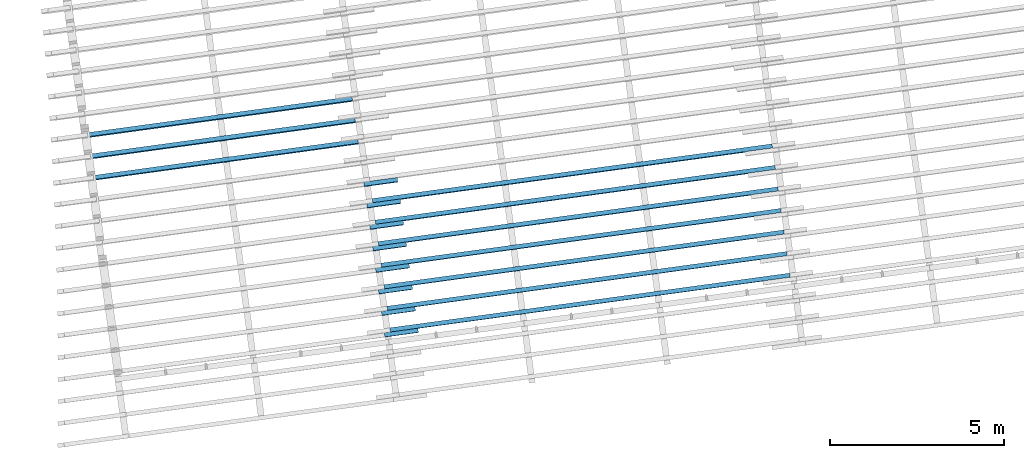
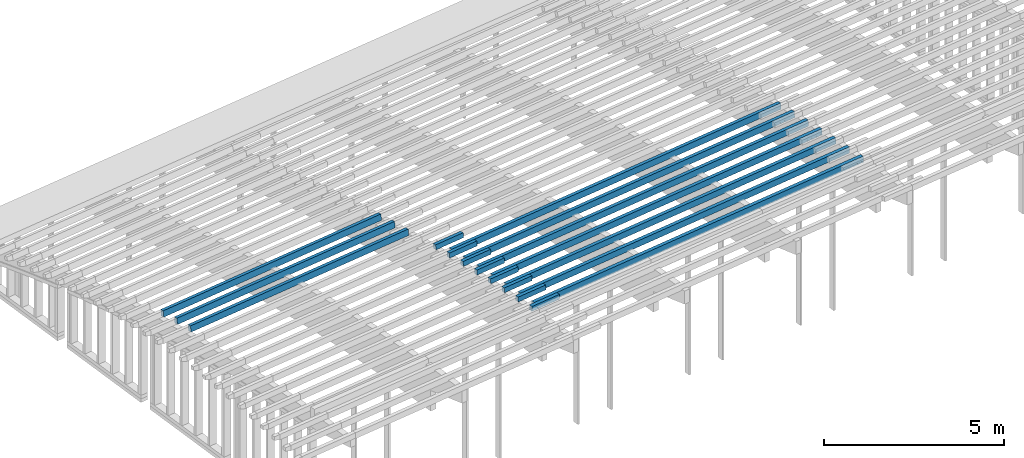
# One storey, part 7 of 18: 18 building element parts, 18 elements without a shape of their own.
"""IFC2X3 building model written with IfcOpenShell, lengths in metres."""

from ifc_helpers import new_model, entity, si_unit, converted_unit, derived_unit, money_unit, direction, frame, origin_with_axes, place, context, subcontext, project, spatial, faceted_brep, material, type_object, element, aggregate, save


model = new_model("IFC2X3")

# Units and contexts
model_context = context("Model", 3, precision=1e-05, world=origin_with_axes(), true_north=direction((0.0, 1.0)))
body_context = subcontext(model_context, "Body", "Model", "MODEL_VIEW")
ifc_project = project(units=[si_unit("LENGTHUNIT", "METRE"), si_unit("AREAUNIT", "SQUARE_METRE"), si_unit("VOLUMEUNIT", "CUBIC_METRE"), converted_unit("PLANEANGLEUNIT", "DEGREE", entity("IfcPlaneAngleMeasure", 0.0174532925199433), si_unit("PLANEANGLEUNIT", "RADIAN"), dimensions=[0, 0, 0, 0, 0, 0, 0]), money_unit("EUR"), converted_unit("TIMEUNIT", "Year", entity("IfcTimeMeasure", 31557600.0), si_unit("TIMEUNIT", "SECOND"), dimensions=[0, 0, 1, 0, 0, 0, 0]), si_unit("MASSUNIT", "GRAM", prefix="KILO"), si_unit("THERMODYNAMICTEMPERATUREUNIT", "DEGREE_CELSIUS"), si_unit("LUMINOUSINTENSITYUNIT", "LUMEN"), si_unit("ENERGYUNIT", "JOULE", prefix="MEGA"), derived_unit("THERMALCONDUCTANCEUNIT", [(si_unit("POWERUNIT", "WATT"), 1), (si_unit("LENGTHUNIT", "METRE"), -1), (si_unit("THERMODYNAMICTEMPERATUREUNIT", "KELVIN"), -1)]), derived_unit("SPECIFICHEATCAPACITYUNIT", [(si_unit("ENERGYUNIT", "JOULE"), 1), (si_unit("MASSUNIT", "GRAM", prefix="KILO"), -1), (si_unit("THERMODYNAMICTEMPERATUREUNIT", "KELVIN"), -1)]), derived_unit("MASSDENSITYUNIT", [(si_unit("MASSUNIT", "GRAM", prefix="KILO"), 1), (si_unit("VOLUMEUNIT", "CUBIC_METRE"), -1)])], contexts=[model_context])

# Site, building, storey
site_placement = place(None, origin_with_axes())
site = spatial("IfcSite", under=ifc_project, at=site_placement, Name="Gelände", CompositionType="ELEMENT")
building_placement = place(site_placement, origin_with_axes())
building = spatial("IfcBuilding", under=site, at=building_placement, Name="Gebäude", CompositionType="ELEMENT")
storey_placement = place(building_placement, frame((0.0, 0.0, 5.5), z_axis=(0.0, 0.0, 1.0), x_axis=(1.0, 0.0, 0.0)))
storey = spatial("IfcBuildingStorey", under=building, at=storey_placement, Name="OG", CompositionType="ELEMENT", Elevation=5.5)

# Beam, building element part
beam_type_1 = type_object("IfcBeamType", Name="Verschiedene Strukturen - 3 Segmente - 120 x 200 x 12890 (660+11570+660)", PredefinedType="NOTDEFINED")
beam_1_placement = place(storey_placement, frame((93.3715612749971, -147.186997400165, 4.781786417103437), z_axis=(0.0, 0.0, 1.0), x_axis=(0.1357111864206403, -0.9907484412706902, 0.0)))
beam_1 = element("IfcBeam", 1, at=beam_1_placement, inside=storey, type_object=beam_type_1, Name="Unterzug-031")
ifc_material = material(Name="Bauholz")
building_element_part_1_placement = place(beam_1_placement, origin_with_axes())
building_element_part_1 = element("IfcBuildingElementPart", 2, at=building_element_part_1_placement, material=ifc_material, Name="Bauholz", context=body_context, shape_type="Brep", body=[
    faceted_brep([(0.05980890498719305, 12.22957971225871, 0.00482963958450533), (0.07266856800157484, 12.2295797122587, -0.1546527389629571), (0.07283202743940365, 12.2295797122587, -0.1546395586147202), (0.07608414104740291, 12.2295797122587, -0.1944510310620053), (-0.04351747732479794, 12.2295797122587, -0.2042210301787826), (-0.05980080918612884, 12.2295797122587, -0.004884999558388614), (0.07266856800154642, 11.43763277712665, -0.1546527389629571), (0.05980890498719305, 11.43763277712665, 0.00482963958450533), (0.07283202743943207, 11.43763277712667, -0.1546395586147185), (0.0598089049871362, 1.451946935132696, 0.00482963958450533), (0.07283202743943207, 1.451946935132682, -0.1546395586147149), (0.07283202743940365, 0.6599999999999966, -0.1546395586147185), (0.07608414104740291, 0.6599999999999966, -0.1944510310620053), (-0.04351747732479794, 0.6599999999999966, -0.2042210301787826), (-0.05980080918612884, 0.6600000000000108, -0.004884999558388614), (0.0598089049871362, 0.6599999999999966, 0.00482963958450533), (0.07266856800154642, 1.451946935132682, -0.1546527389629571), (0.072668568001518, 0.6599999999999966, -0.1546527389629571)], [[[0, 1, 2, 3, 4, 5]], [[6, 1, 0, 7]], [[8, 2, 1, 6]], [[2, 8, 7, 9, 10, 11, 12, 3]], [[3, 12, 13, 4]], [[4, 13, 14, 5]], [[9, 7, 0, 5, 14, 15]], [[6, 7, 8]], [[16, 10, 9]], [[11, 10, 16, 17]], [[14, 13, 12, 11, 17, 15]], [[15, 17, 16, 9]]]),
])
aggregate(beam_1, [building_element_part_1])

beam_2_placement = place(storey_placement, frame((93.45616557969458, -147.8046442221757, 4.829528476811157), z_axis=(0.0, 0.0, 1.0), x_axis=(0.1357111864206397, -0.9907484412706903, 0.0)))
beam_2 = element("IfcBeam", 3, at=beam_2_placement, inside=storey, type_object=beam_type_1, Name="Unterzug-031")
building_element_part_2_placement = place(beam_2_placement, origin_with_axes())
building_element_part_2 = element("IfcBuildingElementPart", 4, at=building_element_part_2_placement, material=ifc_material, Name="Bauholz", context=body_context, shape_type="Brep", body=[
    faceted_brep([(0.05984719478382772, 12.22957971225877, 0.004279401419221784), (0.05993982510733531, 12.22957971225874, 0.002983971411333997), (0.0708701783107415, 12.22957971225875, -0.1553123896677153), (0.07125697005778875, 12.22957971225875, -0.1552856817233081), (0.07411186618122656, 12.22957971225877, -0.1952112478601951), (-0.04558252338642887, 12.22957971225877, -0.2037700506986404), (-0.05984719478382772, 12.22957971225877, -0.004279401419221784), (0.05993982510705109, 12.14208144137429, 0.002983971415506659), (0.0708701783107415, 11.43763277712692, -0.1553123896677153), (0.05993392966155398, 11.43763277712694, 0.003069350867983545), (0.07125697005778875, 11.43763277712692, -0.1552856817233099), (0.06068559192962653, 11.43763277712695, -0.007445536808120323), (0.07125697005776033, 1.451946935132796, -0.1552856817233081), (0.07125697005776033, 0.6600000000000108, -0.1552856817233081), (0.07411186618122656, 0.6600000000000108, -0.1952112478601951), (-0.04558252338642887, 0.6599999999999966, -0.2037700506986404), (-0.05984719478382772, 0.6600000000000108, -0.004279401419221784), (0.05985036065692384, 1.451946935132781, 0.004279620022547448), (0.05985036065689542, 0.6599999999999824, 0.004279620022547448), (0.07087017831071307, 1.451946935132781, -0.1553123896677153), (0.07087017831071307, 0.6599999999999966, -0.1553123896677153)], [[[0, 1, 2, 3, 4, 5, 6]], [[0, 7, 1]], [[8, 2, 1, 7, 9]], [[8, 10, 3, 2]], [[3, 10, 11, 12, 13, 14, 4]], [[15, 5, 4, 14]], [[16, 6, 5, 15]], [[17, 0, 6, 16, 18]], [[11, 9, 7, 0, 17, 12]], [[9, 11, 10, 8]], [[13, 12, 19, 20]], [[16, 15, 14, 13, 20, 18]], [[17, 18, 20, 19]], [[19, 12, 17]]]),
])
aggregate(beam_2, [building_element_part_2])

beam_3_placement = place(storey_placement, frame((93.54083113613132, -148.4227382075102, 4.870957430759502), z_axis=(0.0, 0.0, 1.0), x_axis=(0.135711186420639, -0.9907484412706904, 0.0)))
beam_3 = element("IfcBeam", 5, at=beam_3_placement, inside=storey, type_object=beam_type_1, Name="Unterzug-031")
building_element_part_3_placement = place(beam_3_placement, origin_with_axes())
building_element_part_3 = element("IfcBuildingElementPart", 6, at=building_element_part_3_placement, material=ifc_material, Name="Bauholz", context=body_context, shape_type="Brep", body=[
    faceted_brep([(0.05988619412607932, 12.22957971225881, 0.00374901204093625), (0.06937521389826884, 12.22957971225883, -0.1559693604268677), (0.06967847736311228, 12.22957971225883, -0.1559513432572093), (0.07213199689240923, 12.22957971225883, -0.1959514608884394), (-0.04764289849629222, 12.22957971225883, -0.2032981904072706), (-0.05988744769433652, 12.22957971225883, -0.003673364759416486), (0.06937521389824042, 11.43763277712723, -0.1559693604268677), (0.05988619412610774, 11.43763277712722, 0.00374901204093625), (0.06967847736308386, 11.43763277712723, -0.1559513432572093), (0.05989067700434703, 1.451946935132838, 0.003673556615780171), (0.06967847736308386, 1.451946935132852, -0.1559513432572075), (0.06967847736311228, 0.6599999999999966, -0.1559513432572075), (0.07213199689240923, 0.6599999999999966, -0.1959514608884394), (-0.0476428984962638, 0.6599999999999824, -0.2032981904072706), (-0.05988744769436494, 0.6599999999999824, -0.003673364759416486), (0.0598906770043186, 0.6599999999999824, 0.003673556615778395), (0.069375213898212, 1.451946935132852, -0.1559693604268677), (0.069375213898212, 0.6599999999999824, -0.1559693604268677)], [[[0, 1, 2, 3, 4, 5]], [[6, 1, 0, 7]], [[8, 2, 1, 6]], [[2, 8, 7, 9, 10, 11, 12, 3]], [[13, 4, 3, 12]], [[14, 5, 4, 13]], [[9, 7, 0, 5, 14, 15]], [[6, 7, 8]], [[16, 10, 9]], [[11, 10, 16, 17]], [[14, 13, 12, 11, 17, 15]], [[9, 15, 17, 16]]]),
])
aggregate(beam_3, [building_element_part_3])

beam_type_2 = type_object("IfcBeamType", Name="Verschiedene Strukturen - 4 Segmente - 120 x 200 x 10342 (970+7659+1523+190)", PredefinedType="NOTDEFINED")
beam_4_placement = place(storey_placement, frame((95.08032866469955, -148.9629135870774, 4.912074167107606), z_axis=(0.0, 0.0, 1.0), x_axis=(-0.1357111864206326, 0.9907484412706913, 0.0)))
beam_4 = element("IfcBeam", 7, at=beam_4_placement, inside=storey, type_object=beam_type_2, Name="Unterzug-031")
building_element_part_4_placement = place(beam_4_placement, origin_with_axes())
building_element_part_4 = element("IfcBuildingElementPart", 8, at=building_element_part_4_placement, material=ifc_material, Name="Bauholz", context=body_context, shape_type="Brep", body=[
    faceted_brep([(0.05992836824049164, 0.0, -0.002930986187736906), (0.05992836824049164, 0.9700000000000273, -0.002930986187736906), (-0.05992836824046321, 0.9700000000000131, 0.002930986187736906), (-0.05992836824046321, 0.0, 0.002930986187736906), (0.05211240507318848, 0.0, -0.1627399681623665), (0.05211240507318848, 0.9700000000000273, -0.1627399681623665), (-0.06774433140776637, 0.9700000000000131, -0.1568779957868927), (-0.06774433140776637, 0.0, -0.1568779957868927)], [[[0, 1, 2, 3]], [[4, 5, 1, 0]], [[2, 1, 5, 6]], [[3, 2, 6, 7]], [[4, 0, 3, 7]], [[7, 6, 5, 4]]]),
])
aggregate(beam_4, [building_element_part_4])

beam_type_3 = type_object("IfcBeamType", Name="Verschiedene Strukturen - 4 Segmente - 120 x 200 x 10261 (970+7659+1442+190)", PredefinedType="NOTDEFINED")
beam_5_placement = place(storey_placement, frame((94.99560086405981, -148.3443651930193, 4.878264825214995), z_axis=(0.0, 0.0, 1.0), x_axis=(-0.1357111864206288, 0.9907484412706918, 0.0)))
beam_5 = element("IfcBeam", 9, at=beam_5_placement, inside=storey, type_object=beam_type_3, Name="Unterzug-031")
building_element_part_5_placement = place(beam_5_placement, origin_with_axes())
building_element_part_5 = element("IfcBuildingElementPart", 10, at=building_element_part_5_placement, material=ifc_material, Name="Bauholz", context=body_context, shape_type="Brep", body=[
    faceted_brep([(0.0598943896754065, 0.0, -0.00355838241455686), (0.0598943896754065, 0.9700000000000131, -0.00355838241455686), (-0.05989438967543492, 0.9700000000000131, 0.00355838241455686), (-0.05989438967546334, 0.0, 0.00355838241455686), (0.05040536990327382, 0.0, -0.1632767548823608), (0.05040536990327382, 0.9700000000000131, -0.1632767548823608), (-0.0693834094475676, 0.9699999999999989, -0.1561599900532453), (-0.06938340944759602, 0.0, -0.1561599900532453)], [[[0, 1, 2, 3]], [[4, 5, 1, 0]], [[2, 1, 5, 6]], [[3, 2, 6, 7]], [[4, 0, 3, 7]], [[7, 6, 5, 4]]]),
])
aggregate(beam_5, [building_element_part_5])

beam_type_4 = type_object("IfcBeamType", Name="Verschiedene Strukturen - 4 Segmente - 120 x 200 x 10184 (970+7659+1365+190)", PredefinedType="NOTDEFINED")
beam_6_placement = place(storey_placement, frame((94.91092517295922, -147.7261972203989, 4.837969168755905), z_axis=(0.0, 0.0, 1.0), x_axis=(-0.1357111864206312, 0.9907484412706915, 0.0)))
beam_6 = element("IfcBeam", 11, at=beam_6_placement, inside=storey, type_object=beam_type_4, Name="Unterzug-031")
building_element_part_6_placement = place(beam_6_placement, origin_with_axes())
building_element_part_6 = element("IfcBuildingElementPart", 12, at=building_element_part_6_placement, material=ifc_material, Name="Bauholz", context=body_context, shape_type="Brep", body=[
    faceted_brep([(0.05985747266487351, 0.0, -0.004133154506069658), (0.05985747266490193, 0.9699999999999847, -0.004133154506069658), (-0.05985747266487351, 0.9699999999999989, 0.004133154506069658), (-0.05985747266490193, 0.0, 0.004133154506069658), (0.04883572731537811, 0.0, -0.1637530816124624), (0.04883572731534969, 0.9699999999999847, -0.1637530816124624), (-0.07087921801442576, 0.9700000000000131, -0.1554867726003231), (-0.07087921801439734, 0.0, -0.1554867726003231)], [[[0, 1, 2, 3]], [[4, 5, 1, 0]], [[2, 1, 5, 6]], [[3, 2, 6, 7]], [[4, 0, 3, 7]], [[7, 6, 5, 4]]]),
])
aggregate(beam_6, [building_element_part_6])

beam_type_5 = type_object("IfcBeamType", Name="Verschiedene Strukturen - 4 Segmente - 120 x 200 x 10110 (970+7659+1291+190)", PredefinedType="NOTDEFINED")
beam_7_placement = place(storey_placement, frame((94.82630850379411, -147.1084601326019, 4.791438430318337), z_axis=(0.0, 0.0, 1.0), x_axis=(-0.1357111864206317, 0.9907484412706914, 0.0)))
beam_7 = element("IfcBeam", 13, at=beam_7_placement, inside=storey, type_object=beam_type_5, Name="Unterzug-031")
building_element_part_7_placement = place(beam_7_placement, origin_with_axes())
building_element_part_7 = element("IfcBuildingElementPart", 14, at=building_element_part_7_placement, material=ifc_material, Name="Bauholz", context=body_context, shape_type="Brep", body=[
    faceted_brep([(0.05980589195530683, 0.0, -0.004822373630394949), (0.05980589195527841, 0.9700000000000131, -0.004822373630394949), (-0.05980589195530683, 0.9700000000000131, 0.004822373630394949), (-0.05980589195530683, 0.0, 0.004822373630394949), (0.04694622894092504, 0.0, -0.1643047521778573), (0.04694622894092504, 0.9700000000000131, -0.1643047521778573), (-0.07266555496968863, 0.9700000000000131, -0.1546600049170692), (-0.07266555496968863, 0.0, -0.1546600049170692)], [[[0, 1, 2, 3]], [[4, 5, 1, 0]], [[2, 1, 5, 6]], [[3, 2, 6, 7]], [[4, 0, 3, 7]], [[7, 6, 5, 4]]]),
])
aggregate(beam_7, [building_element_part_7])

beam_type_6 = type_object("IfcBeamType", Name="Verschiedene Strukturen - 4 Segmente - 120 x 200 x 9973 (970+7659+1154+190)", PredefinedType="NOTDEFINED")
beam_8_placement = place(storey_placement, frame((94.65728644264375, -145.8745283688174, 4.679531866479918), z_axis=(0.0, 0.0, 1.0), x_axis=(-0.1357111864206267, 0.9907484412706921, 0.0)))
beam_8 = element("IfcBeam", 15, at=beam_8_placement, inside=storey, type_object=beam_type_6, Name="Unterzug-031")
building_element_part_8_placement = place(beam_8_placement, origin_with_axes())
building_element_part_8 = element("IfcBuildingElementPart", 16, at=building_element_part_8_placement, material=ifc_material, Name="Bauholz", context=body_context, shape_type="Brep", body=[
    faceted_brep([(0.05970437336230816, 0.0, -0.005948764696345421), (0.05970437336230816, 0.9699999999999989, -0.005948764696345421), (-0.05970437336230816, 0.9700000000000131, 0.005948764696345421), (-0.05970437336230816, 0.0, 0.005948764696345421), (0.04384100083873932, 0.0, -0.16516042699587), (0.04384100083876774, 0.9699999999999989, -0.16516042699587), (-0.07556774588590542, 0.9699999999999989, -0.1532628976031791), (-0.07556774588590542, 0.0, -0.1532628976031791)], [[[0, 1, 2, 3]], [[4, 5, 1, 0]], [[2, 1, 5, 6]], [[3, 2, 6, 7]], [[4, 0, 3, 7]], [[7, 6, 5, 4]]]),
])
aggregate(beam_8, [building_element_part_8])

beam_type_7 = type_object("IfcBeamType", Name="Verschiedene Strukturen - 4 Segmente - 120 x 200 x 10040 (970+7659+1220+190)", PredefinedType="NOTDEFINED")
beam_9_placement = place(storey_placement, frame((94.74175862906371, -146.4912106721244, 4.738673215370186), z_axis=(0.0, 0.0, 1.0), x_axis=(-0.1357111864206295, 0.9907484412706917, 0.0)))
beam_9 = element("IfcBeam", 17, at=beam_9_placement, inside=storey, type_object=beam_type_7, Name="Unterzug-031")
building_element_part_9_placement = place(beam_9_placement, origin_with_axes())
building_element_part_9 = element("IfcBuildingElementPart", 18, at=building_element_part_9_placement, material=ifc_material, Name="Bauholz", context=body_context, shape_type="Brep", body=[
    faceted_brep([(0.05976153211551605, 0.0, -0.005344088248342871), (0.05976153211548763, 0.9699999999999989, -0.005344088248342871), (-0.05976153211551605, 0.9699999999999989, 0.005344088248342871), (-0.05976153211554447, 0.0, 0.005344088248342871), (0.04551063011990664, 0.0, -0.1647081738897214), (0.04551063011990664, 0.9699999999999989, -0.1647081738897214), (-0.07401243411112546, 0.9699999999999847, -0.1540199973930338), (-0.07401243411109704, 0.0, -0.1540199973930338)], [[[0, 1, 2, 3]], [[4, 5, 1, 0]], [[2, 1, 5, 6]], [[3, 2, 6, 7]], [[4, 0, 3, 7]], [[7, 6, 5, 4]]]),
])
aggregate(beam_9, [building_element_part_9])

beam_type_8 = type_object("IfcBeamType", Name="Verschiedene Strukturen - 4 Segmente - 120 x 200 x 9909 (970+7659+1090+190)", PredefinedType="NOTDEFINED")
beam_10_placement = place(storey_placement, frame((94.57289909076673, -145.2584653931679, 4.614089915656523), z_axis=(0.0, 0.0, 1.0), x_axis=(-0.135711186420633, 0.9907484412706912, 0.0)))
beam_10 = element("IfcBeam", 19, at=beam_10_placement, inside=storey, type_object=beam_type_8, Name="Unterzug-031")
building_element_part_10_placement = place(beam_10_placement, origin_with_axes())
building_element_part_10 = element("IfcBuildingElementPart", 20, at=building_element_part_10_placement, material=ifc_material, Name="Bauholz", context=body_context, shape_type="Brep", body=[
    faceted_brep([(0.05963765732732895, 0.0, -0.006584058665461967), (0.05963765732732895, 0.9699999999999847, -0.006584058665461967), (-0.05963765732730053, 0.9699999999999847, 0.006584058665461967), (-0.05963765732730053, 0.0, 0.006584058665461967), (0.04208016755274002, 0.0, -0.1656178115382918), (0.04208016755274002, 0.9699999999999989, -0.1656178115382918), (-0.07719514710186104, 0.9699999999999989, -0.1524496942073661), (-0.07719514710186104, 0.0, -0.1524496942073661)], [[[0, 1, 2, 3]], [[4, 5, 1, 0]], [[2, 1, 5, 6]], [[3, 2, 6, 7]], [[4, 0, 3, 7]], [[7, 6, 5, 4]]]),
])
aggregate(beam_10, [building_element_part_10])

beam_type_9 = type_object("IfcBeamType", Name="Verschiedene Strukturen - 4 Segmente - 120 x 200 x 9793 (970+7659+974+190)", PredefinedType="NOTDEFINED")
beam_11_placement = place(storey_placement, frame((94.40442273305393, -144.0285174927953, 4.46423359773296), z_axis=(0.0, 0.0, 1.0), x_axis=(-0.1357111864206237, 0.9907484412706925, 0.0)))
beam_11 = element("IfcBeam", 21, at=beam_11_placement, inside=storey, type_object=beam_type_9, Name="Unterzug-031")
building_element_part_11_placement = place(beam_11_placement, origin_with_axes())
building_element_part_11 = element("IfcBuildingElementPart", 22, at=building_element_part_11_placement, material=ifc_material, Name="Bauholz", context=body_context, shape_type="Brep", body=[
    faceted_brep([(0.05949214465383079, 8.629139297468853, -0.00779004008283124), (0.05949240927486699, 4.852805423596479, -0.00779004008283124), (0.03871846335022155, 4.852805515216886, -0.166437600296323), (0.03871845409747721, 4.732805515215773, -0.1664376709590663), (0.05949188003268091, 4.732805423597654, -0.00779004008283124), (0.05949214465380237, 0.9700000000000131, -0.00779004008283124), (0.0335253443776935, 0.9700000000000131, -0.2060971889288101), (0.0335253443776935, 8.629139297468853, -0.2060971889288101), (-0.05949214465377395, 8.629139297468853, 0.00779004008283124), (-0.05949188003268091, 4.852803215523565, 0.007790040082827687), (-0.05949240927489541, 4.732803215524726, 0.007790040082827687), (-0.05949214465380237, 0.9700000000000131, 0.00779004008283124), (0.03808081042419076, 4.852805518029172, -0.166350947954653), (0.03808028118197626, 4.732805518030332, -0.166350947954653), (-0.0854589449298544, 0.9700000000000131, -0.1905171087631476), (-0.08545894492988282, 8.629139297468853, -0.1905171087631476), (-0.08026585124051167, 4.732803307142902, -0.1508577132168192), (-0.08026584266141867, 4.852803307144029, -0.1508576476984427), (-0.07989896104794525, 4.852803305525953, -0.1509038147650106), (-0.07989949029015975, 4.732803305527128, -0.1509038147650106)], [[[0, 1, 2, 3, 4, 5, 6, 7]], [[5, 4, 1, 0, 8, 9, 10, 11]], [[12, 2, 1]], [[13, 3, 2, 12]], [[13, 4, 3]], [[11, 14, 6, 5]], [[7, 6, 14, 15]], [[7, 15, 8, 0]], [[12, 1, 4, 13]], [[14, 11, 10, 16, 17, 9, 8, 15]], [[9, 18, 19, 10]], [[19, 16, 10]], [[17, 16, 19, 18]], [[18, 9, 17]]]),
])
aggregate(beam_11, [building_element_part_11])

beam_type_10 = type_object("IfcBeamType", Name="Verschiedene Strukturen - 4 Segmente - 120 x 200 x 9740 (970+7659+921+190)", PredefinedType="NOTDEFINED")
beam_12_placement = place(storey_placement, frame((94.3203410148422, -143.4146857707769, 4.380047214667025), z_axis=(0.0, 0.0, 1.0), x_axis=(-0.1357111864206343, 0.9907484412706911, 0.0)))
beam_12 = element("IfcBeam", 23, at=beam_12_placement, inside=storey, type_object=beam_type_10, Name="Unterzug-031")
building_element_part_12_placement = place(beam_12_placement, origin_with_axes())
building_element_part_12 = element("IfcBuildingElementPart", 24, at=building_element_part_12_placement, material=ifc_material, Name="Bauholz", context=body_context, shape_type="Brep", body=[
    faceted_brep([(0.05941462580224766, 8.629139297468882, -0.008360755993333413), (0.05941489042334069, 4.852805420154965, -0.008360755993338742), (0.03711890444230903, 4.852805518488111, -0.1668024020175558), (0.037118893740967, 4.732805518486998, -0.1668024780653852), (0.05941436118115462, 4.732805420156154, -0.008360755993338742), (0.05941462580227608, 0.9699999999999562, -0.008360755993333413), (0.03154543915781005, 0.9699999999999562, -0.2064095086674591), (0.03154543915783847, 8.629139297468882, -0.2064095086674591), (-0.05941462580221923, 8.629139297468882, 0.008360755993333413), (-0.05941436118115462, 4.852803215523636, 0.008360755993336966), (-0.05941489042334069, 4.732803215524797, 0.008360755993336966), (-0.05941462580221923, 0.9699999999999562, 0.008360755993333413), (0.0363310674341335, 4.85280552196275, -0.1666868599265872), (0.036330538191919, 4.732805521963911, -0.1666868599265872), (-0.08728381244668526, 0.969999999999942, -0.1896879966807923), (-0.08728381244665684, 8.629139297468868, -0.1896879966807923), (-0.08171023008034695, 4.732803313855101, -0.1500800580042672), (-0.0817102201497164, 4.852803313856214, -0.1500799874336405), (-0.08138939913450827, 4.852803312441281, -0.1501235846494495), (-0.08138992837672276, 4.732803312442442, -0.1501235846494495)], [[[0, 1, 2, 3, 4, 5, 6, 7]], [[5, 4, 1, 0, 8, 9, 10, 11]], [[12, 2, 1]], [[13, 3, 2, 12]], [[13, 4, 3]], [[11, 14, 6, 5]], [[7, 6, 14, 15]], [[7, 15, 8, 0]], [[12, 1, 4, 13]], [[14, 11, 10, 16, 17, 9, 8, 15]], [[9, 18, 19, 10]], [[19, 16, 10]], [[17, 16, 19, 18]], [[18, 9, 17]]]),
])
aggregate(beam_12, [building_element_part_12])

beam_type_11 = type_object("IfcBeamType", Name="Verschiedene Strukturen - 4 Segmente - 120 x 200 x 9690 (970+7659+871+190)", PredefinedType="NOTDEFINED")
beam_13_placement = place(storey_placement, frame((94.23638661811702, -142.8017835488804, 4.289462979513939), z_axis=(0.0, 0.0, 1.0), x_axis=(-0.1357111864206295, 0.9907484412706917, 0.0)))
beam_13 = element("IfcBeam", 25, at=beam_13_placement, inside=storey, type_object=beam_type_11, Name="Unterzug-031")
building_element_part_13_placement = place(beam_13_placement, origin_with_axes())
building_element_part_13 = element("IfcBuildingElementPart", 26, at=building_element_part_13_placement, material=ifc_material, Name="Bauholz", context=body_context, shape_type="Brep", body=[
    faceted_brep([(0.0593343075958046, 8.629139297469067, -0.008912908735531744), (0.05933457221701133, 4.852805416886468, -0.008912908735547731), (0.0355660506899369, 4.852805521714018, -0.1671410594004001), (0.03556603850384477, 4.732805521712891, -0.1671411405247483), (0.05933404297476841, 4.732805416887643, -0.008912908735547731), (0.0593343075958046, 0.9700000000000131, -0.008912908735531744), (0.02962461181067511, 0.9699999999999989, -0.2066939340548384), (0.02962461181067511, 8.629139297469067, -0.2066939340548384), (-0.0593343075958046, 8.62913929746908, 0.008912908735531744), (-0.05933404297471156, 4.852803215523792, 0.008912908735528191), (-0.05933457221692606, 4.732803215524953, 0.008912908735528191), (-0.0593343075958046, 0.9700000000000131, 0.008912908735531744), (0.03466730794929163, 4.85280552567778, -0.1670000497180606), (0.03466677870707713, 4.732805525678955, -0.1670000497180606), (-0.08904400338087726, 0.9699999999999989, -0.1888681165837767), (-0.08904400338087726, 8.62913929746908, -0.1888681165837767), (-0.08310221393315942, 4.732803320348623, -0.1493129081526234), (-0.08310220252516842, 4.85280332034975, -0.1493128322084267), (-0.08298046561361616, 4.852803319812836, -0.1493306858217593), (-0.08298099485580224, 4.732803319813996, -0.1493306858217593)], [[[0, 1, 2, 3, 4, 5, 6, 7]], [[5, 4, 1, 0, 8, 9, 10, 11]], [[12, 2, 1]], [[13, 3, 2, 12]], [[13, 4, 3]], [[11, 14, 6, 5]], [[7, 6, 14, 15]], [[7, 15, 8, 0]], [[12, 1, 4, 13]], [[14, 11, 10, 16, 17, 9, 8, 15]], [[9, 18, 19, 10]], [[19, 16, 10]], [[17, 16, 19, 18]], [[18, 9, 17]]]),
])
aggregate(beam_13, [building_element_part_13])

beam_14_placement = place(storey_placement, frame((93.20257109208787, -145.9532983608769, 4.667383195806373), z_axis=(0.0, 0.0, 1.0), x_axis=(0.1357111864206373, -0.9907484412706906, 0.0)))
beam_14 = element("IfcBeam", 27, at=beam_14_placement, inside=storey, type_object=beam_type_1, Name="Unterzug-031")
building_element_part_14_placement = place(beam_14_placement, origin_with_axes())
building_element_part_14 = element("IfcBuildingElementPart", 28, at=building_element_part_14_placement, material=ifc_material, Name="Bauholz", context=body_context, shape_type="Brep", body=[
    faceted_brep([(-0.05968965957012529, 12.22957971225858, -0.00609463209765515), (0.05968605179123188, 12.22957971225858, 0.00609426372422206), (0.07553889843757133, 12.22957971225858, -0.153011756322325), (0.07593127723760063, 12.2295797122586, -0.1529726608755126), (0.080005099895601, 12.22957971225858, -0.1928708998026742), (-0.03937421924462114, 12.22957971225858, -0.2050601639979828), (0.05968605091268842, 11.43763277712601, 0.006094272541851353), (-0.05968965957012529, 0.660000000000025, -0.00609463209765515), (0.05968605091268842, 0.6599999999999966, 0.00609427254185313), (0.05968605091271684, 1.451946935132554, 0.006094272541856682), (0.07553889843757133, 11.43763277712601, -0.153011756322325), (0.07593127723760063, 11.43763277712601, -0.1529726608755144), (0.06088310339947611, 11.43763277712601, -0.005593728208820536), (0.0759312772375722, 1.451946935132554, -0.1529726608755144), (0.0759312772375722, 0.660000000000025, -0.1529726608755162), (0.080005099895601, 0.6600000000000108, -0.1928708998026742), (-0.03937421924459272, 0.6600000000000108, -0.2050601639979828), (0.07553889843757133, 0.6599999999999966, -0.153011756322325), (0.07553889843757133, 1.451946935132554, -0.153011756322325)], [[[0, 1, 2, 3, 4, 5]], [[6, 1, 0, 7, 8, 9]], [[10, 2, 1, 6]], [[10, 11, 3, 2]], [[3, 11, 12, 13, 14, 15, 4]], [[16, 5, 4, 15]], [[7, 0, 5, 16]], [[7, 16, 15, 14, 17, 8]], [[9, 8, 17, 18]], [[13, 12, 6, 9]], [[6, 12, 11, 10]], [[14, 13, 18, 17]], [[18, 13, 9]]]),
])
aggregate(beam_14, [building_element_part_14])

beam_15_placement = place(storey_placement, frame((93.2870268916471, -146.5698610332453, 4.727736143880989), z_axis=(0.0, 0.0, 1.0), x_axis=(0.1357111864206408, -0.9907484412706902, 0.0)))
beam_15 = element("IfcBeam", 29, at=beam_15_placement, inside=storey, type_object=beam_type_1, Name="Unterzug-031")
building_element_part_15_placement = place(beam_15_placement, origin_with_axes())
building_element_part_15 = element("IfcBuildingElementPart", 30, at=building_element_part_15_placement, material=ifc_material, Name="Bauholz", context=body_context, shape_type="Brep", body=[
    faceted_brep([(-0.05974829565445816, 12.22957971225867, -0.00549009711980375), (0.05974831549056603, 12.22957971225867, 0.005490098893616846), (0.0739900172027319, 12.22957971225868, -0.1537711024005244), (0.07437914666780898, 12.22957971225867, -0.1537363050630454), (0.07804861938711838, 12.22957971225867, -0.193670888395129), (-0.04144797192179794, 12.22957971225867, -0.2046510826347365), (0.05974831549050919, 1.451946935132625, 0.005490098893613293), (0.05974831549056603, 11.4376327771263, 0.00549009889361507), (-0.05974829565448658, 0.6600000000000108, -0.00549009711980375), (0.05974831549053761, 0.6599999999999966, 0.005490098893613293), (0.07399001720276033, 11.4376327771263, -0.1537711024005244), (0.07437914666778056, 11.43763277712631, -0.1537363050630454), (0.07437914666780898, 1.451946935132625, -0.1537363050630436), (0.07437914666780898, 0.6600000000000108, -0.15373630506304), (0.0780486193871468, 0.6600000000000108, -0.193670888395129), (-0.04144797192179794, 0.6599999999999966, -0.2046510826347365), (0.07399001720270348, 0.6599999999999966, -0.1537711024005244), (0.0739900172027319, 1.451946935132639, -0.1537711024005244)], [[[0, 1, 2, 3, 4, 5]], [[6, 7, 1, 0, 8, 9]], [[10, 2, 1, 7]], [[10, 11, 3, 2]], [[3, 11, 7, 6, 12, 13, 14, 4]], [[4, 14, 15, 5]], [[5, 15, 8, 0]], [[14, 13, 16, 9, 8, 15]], [[16, 17, 6, 9]], [[10, 7, 11]], [[6, 17, 12]], [[17, 16, 13, 12]]]),
])
aggregate(beam_15, [building_element_part_15])

beam_type_12 = type_object("IfcBeamType", Name="Verschiedene Strukturen - 4 Segmente - 120 x 200 x 10426 (970+7659+1607+190)", PredefinedType="NOTDEFINED")
beam_16_placement = place(storey_placement, frame((95.1650979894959, -149.5817651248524, 4.939661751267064), z_axis=(0.0, 0.0, 1.0), x_axis=(-0.1357111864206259, 0.9907484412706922, 0.0)))
beam_16 = element("IfcBeam", 31, at=beam_16_placement, inside=storey, type_object=beam_type_12, Name="Unterzug-031")
building_element_part_16_placement = place(beam_16_placement, origin_with_axes())
building_element_part_16 = element("IfcBuildingElementPart", 32, at=building_element_part_16_placement, material=ifc_material, Name="Bauholz", context=body_context, shape_type="Brep", body=[
    faceted_brep([(0.05995537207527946, 0.0, -0.002313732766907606), (0.05995537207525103, 0.9700000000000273, -0.002313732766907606), (-0.05995537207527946, 0.9700000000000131, 0.002313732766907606), (-0.05995537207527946, 0.0, 0.002313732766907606), (0.05378541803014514, 0.0, -0.1621947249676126), (0.05378541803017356, 0.9700000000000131, -0.1621947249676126), (-0.06612532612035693, 0.9700000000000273, -0.1575672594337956), (-0.06612532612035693, 0.0, -0.1575672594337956)], [[[0, 1, 2, 3]], [[4, 5, 1, 0]], [[2, 1, 5, 6]], [[3, 2, 6, 7]], [[4, 0, 3, 7]], [[7, 6, 5, 4]]]),
])
aggregate(beam_16, [building_element_part_16])

beam_17_placement = place(storey_placement, frame((93.71031129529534, -149.66001427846, 4.934859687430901), z_axis=(0.0, 0.0, 1.0), x_axis=(0.1357111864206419, -0.99074844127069, 0.0)))
beam_17 = element("IfcBeam", 33, at=beam_17_placement, inside=storey, type_object=beam_type_1, Name="Unterzug-031")
building_element_part_17_placement = place(beam_17_placement, origin_with_axes())
building_element_part_17 = element("IfcBuildingElementPart", 34, at=building_element_part_17_placement, material=ifc_material, Name="Bauholz", context=body_context, shape_type="Brep", body=[
    faceted_brep([(0.05994953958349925, 12.229579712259, 0.002460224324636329), (0.05997929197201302, 12.229579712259, 0.001735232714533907), (0.0661201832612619, 12.229579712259, -0.1573926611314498), (0.06650900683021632, 12.229579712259, -0.157377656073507), (0.06815028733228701, 12.22957971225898, -0.197371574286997), (-0.05174879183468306, 12.22957971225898, -0.2022920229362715), (-0.05994953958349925, 12.229579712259, -0.002460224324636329), (0.06650869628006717, 11.43763277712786, -0.1573776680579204), (0.05997320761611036, 11.43763277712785, 0.001892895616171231), (0.05995131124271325, 1.451946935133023, 0.002460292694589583), (0.0665090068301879, 1.451946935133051, -0.1573776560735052), (0.06650900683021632, 0.6600000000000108, -0.1573776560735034), (0.06815028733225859, 0.6600000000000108, -0.197371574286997), (0.06612018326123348, 11.43763277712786, -0.1573926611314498), (-0.05174879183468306, 0.6600000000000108, -0.2022920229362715), (-0.05994953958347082, 0.660000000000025, -0.002460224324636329), (0.05995131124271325, 0.6600000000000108, 0.002460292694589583), (0.06612018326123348, 1.451946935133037, -0.1573926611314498), (0.06612018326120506, 0.6600000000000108, -0.1573926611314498)], [[[0, 1, 2, 3, 4, 5, 6]], [[7, 8, 1, 0, 9, 10, 11, 12, 4, 3]], [[13, 2, 1, 8]], [[13, 7, 3, 2]], [[14, 5, 4, 12]], [[15, 6, 5, 14]], [[9, 0, 6, 15, 16]], [[13, 8, 7]], [[17, 10, 9]], [[11, 10, 17, 18]], [[15, 14, 12, 11, 18, 16]], [[9, 16, 18, 17]]]),
])
aggregate(beam_17, [building_element_part_17])

beam_18_placement = place(storey_placement, frame((93.62554926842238, -149.0412160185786, 4.906069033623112), z_axis=(0.0, 0.0, 1.0), x_axis=(0.1357111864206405, -0.9907484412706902, 0.0)))
beam_18 = element("IfcBeam", 35, at=beam_18_placement, inside=storey, type_object=beam_type_1, Name="Unterzug-031")
building_element_part_18_placement = place(beam_18_placement, origin_with_axes())
building_element_part_18 = element("IfcBuildingElementPart", 36, at=building_element_part_18_placement, material=ifc_material, Name="Bauholz", context=body_context, shape_type="Brep", body=[
    faceted_brep([(-0.05992102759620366, 12.22957971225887, -0.003077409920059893), (0.0599234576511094, 12.22957971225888, 0.003074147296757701), (0.06773942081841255, 12.22957971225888, -0.1567348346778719), (0.06812765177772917, 12.22957971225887, -0.1567158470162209), (0.07017906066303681, 12.22957971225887, -0.1966593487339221), (-0.04966299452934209, 12.22957971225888, -0.2028141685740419), (0.05992345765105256, 1.451946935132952, 0.003074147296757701), (0.05992345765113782, 11.43763277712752, 0.003074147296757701), (-0.05992102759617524, 0.6599999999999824, -0.003077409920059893), (0.05992345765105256, 0.6599999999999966, 0.003074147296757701), (0.06773942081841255, 11.4376327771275, -0.1567348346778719), (0.06812765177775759, 11.43763277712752, -0.1567158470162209), (0.06812765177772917, 1.451946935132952, -0.1567158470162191), (0.06812765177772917, 0.6599999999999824, -0.1567158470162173), (0.07017906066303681, 0.6599999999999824, -0.1966593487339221), (-0.04966299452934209, 0.6599999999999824, -0.2028141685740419), (0.06773942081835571, 0.6599999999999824, -0.1567348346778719), (0.06773942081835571, 1.451946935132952, -0.1567348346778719)], [[[0, 1, 2, 3, 4, 5]], [[6, 7, 1, 0, 8, 9]], [[10, 2, 1, 7]], [[10, 11, 3, 2]], [[3, 11, 7, 6, 12, 13, 14, 4]], [[4, 14, 15, 5]], [[5, 15, 8, 0]], [[14, 13, 16, 9, 8, 15]], [[17, 6, 9, 16]], [[10, 7, 11]], [[6, 17, 12]], [[17, 16, 13, 12]]]),
])
aggregate(beam_18, [building_element_part_18])

save(model, "model.ifc")
